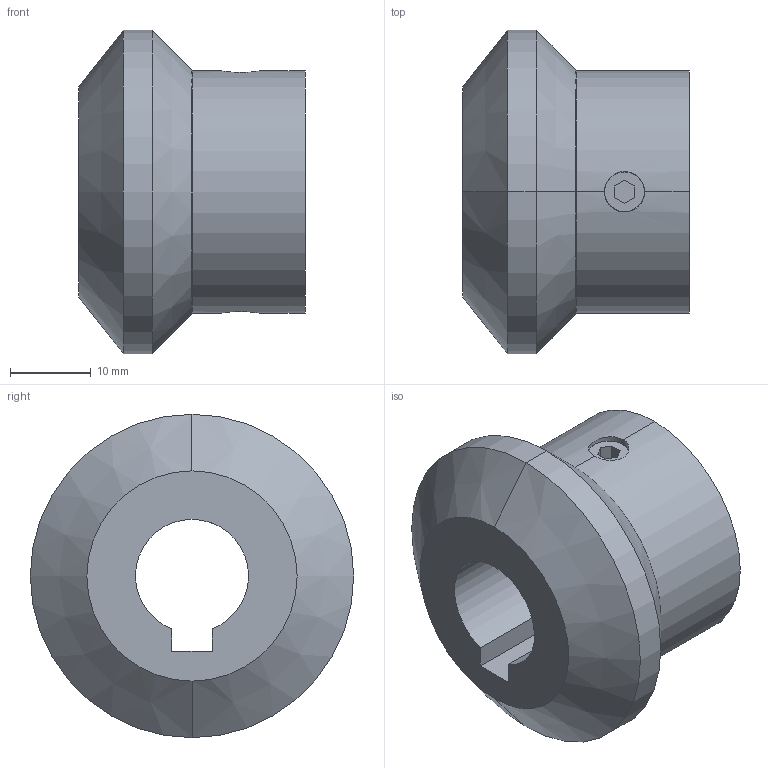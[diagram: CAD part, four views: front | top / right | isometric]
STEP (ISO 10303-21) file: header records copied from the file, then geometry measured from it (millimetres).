
FILE_DESCRIPTION (( 'STEP AP214' ), '1' );
FILE_NAME ('297-40-K14-R.step', '2022-01-25T09:31:52', ( '' ), ( '' ), 'SwSTEP 2.0', 'SolidWorks 2019', '' );
FILE_SCHEMA (( 'AUTOMOTIVE_DESIGN' ));
Length unit declared in the file: millimetre
Products named in the file (1): 297-40-K14-R
Bounding box: 28 x 40 x 40 mm (x, y, z)
Volume: 19198.7 mm3; surface area: 5896.7 mm2
Topology: 1 solids, 1 shells, 50 faces, 114 edges, 70 vertices
Faces by surface type: plane 25, cylinder 13, cone 12
Entity records: 1884 total; most frequent: CARTESIAN_POINT 419, DIRECTION 244, ORIENTED_EDGE 228, EDGE_CURVE 114, AXIS2_PLACEMENT_3D 85, LINE 74, VECTOR 74, VERTEX_POINT 70
